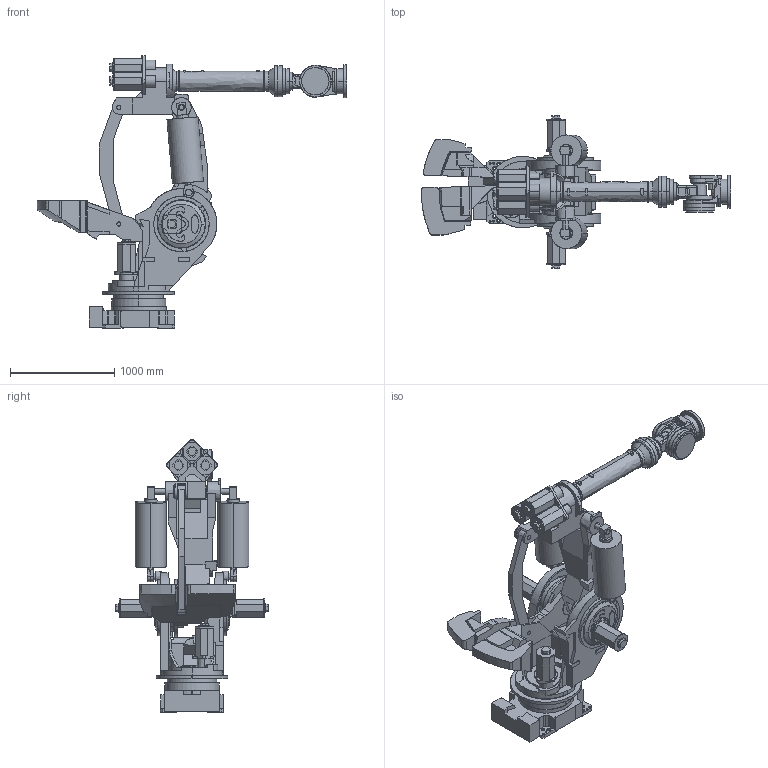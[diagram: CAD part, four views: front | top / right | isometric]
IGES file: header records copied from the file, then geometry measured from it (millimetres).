
Start section: SolidWorks IGES file using analytic representation for surfaces
Global section: file name: T:\RobotRoom\ROBOT MODELS\Fanuc-M-900iA-600.IGS; native system: SolidWorks 2021; preprocessor: SolidWorks 2021; author: Tan.Bates; date: 230602.150057; units: millimetre
Bounding box: 2967.33 x 1461.6 x 2615 mm (x, y, z)
Surface area: 19561997.9 mm2 (no closed solid volume)
Topology: 0 solids, 0 shells, 1730 faces, 29402 edges, 29378 vertices
Faces by surface type: bspline 1071, revolution 659
